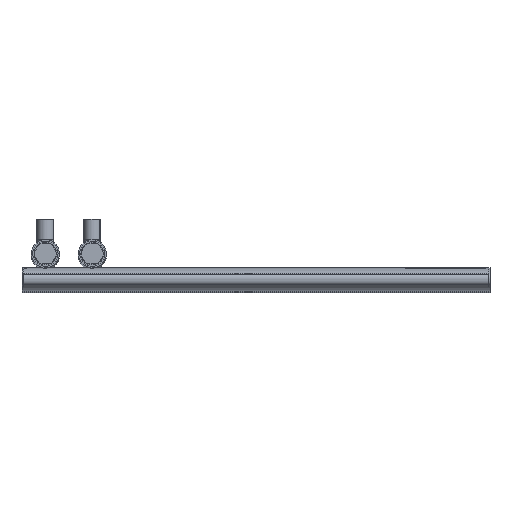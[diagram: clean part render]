
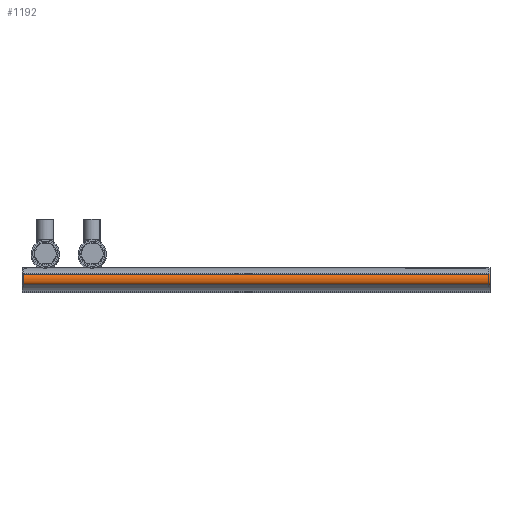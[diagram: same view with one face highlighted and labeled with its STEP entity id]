
A CAD part, top view. The second image highlights one B-rep face of the part: STEP entity #1192.
In plain terms, the highlighted cylindrical face has radius 7.112 mm (diameter 14.225 mm), a partial arc.
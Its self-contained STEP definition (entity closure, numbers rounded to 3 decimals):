
#143=LINE('',#3258,#175);
#146=LINE('',#3273,#178);
#175=VECTOR('',#1502,10.);
#178=VECTOR('',#1519,10.);
#265=CIRCLE('',#1321,7.112);
#266=CIRCLE('',#1322,7.112);
#394=FACE_OUTER_BOUND('',#517,.T.);
#517=EDGE_LOOP('',(#1022,#1023,#1024,#1025));
#684=VERTEX_POINT('',#3254);
#686=VERTEX_POINT('',#3257);
#690=VERTEX_POINT('',#3269);
#691=VERTEX_POINT('',#3271);
#802=EDGE_CURVE('',#684,#686,#143,.T.);
#810=EDGE_CURVE('',#690,#691,#146,.T.);
#811=EDGE_CURVE('',#690,#684,#265,.T.);
#812=EDGE_CURVE('',#686,#691,#266,.T.);
#1022=ORIENTED_EDGE('',*,*,#811,.F.);
#1023=ORIENTED_EDGE('',*,*,#810,.T.);
#1024=ORIENTED_EDGE('',*,*,#812,.F.);
#1025=ORIENTED_EDGE('',*,*,#802,.F.);
#1153=CYLINDRICAL_SURFACE('',#1320,7.112);
#1192=ADVANCED_FACE('',(#394),#1153,.T.);
#1320=AXIS2_PLACEMENT_3D('',#3274,#1520,#1521);
#1321=AXIS2_PLACEMENT_3D('',#3275,#1522,#1523);
#1322=AXIS2_PLACEMENT_3D('',#3276,#1524,#1525);
#1502=DIRECTION('',(0.,0.,-1.));
#1519=DIRECTION('',(0.,0.,-1.));
#1520=DIRECTION('center_axis',(0.,0.,-1.));
#1521=DIRECTION('ref_axis',(0.552,-0.834,0.));
#1522=DIRECTION('center_axis',(0.,0.,1.));
#1523=DIRECTION('ref_axis',(0.552,-0.834,0.));
#1524=DIRECTION('center_axis',(0.,0.,-1.));
#1525=DIRECTION('ref_axis',(0.552,-0.834,0.));
#3254=CARTESIAN_POINT('',(21.816,-6.571,0.));
#3257=CARTESIAN_POINT('',(21.816,-6.571,-500.));
#3258=CARTESIAN_POINT('',(21.816,-6.571,0.));
#3269=CARTESIAN_POINT('',(21.816,-18.429,0.));
#3271=CARTESIAN_POINT('',(21.816,-18.429,-500.));
#3273=CARTESIAN_POINT('',(21.816,-18.429,0.));
#3274=CARTESIAN_POINT('Origin',(17.888,-12.5,0.));
#3275=CARTESIAN_POINT('Origin',(17.888,-12.5,0.));
#3276=CARTESIAN_POINT('Origin',(17.888,-12.5,-500.));
